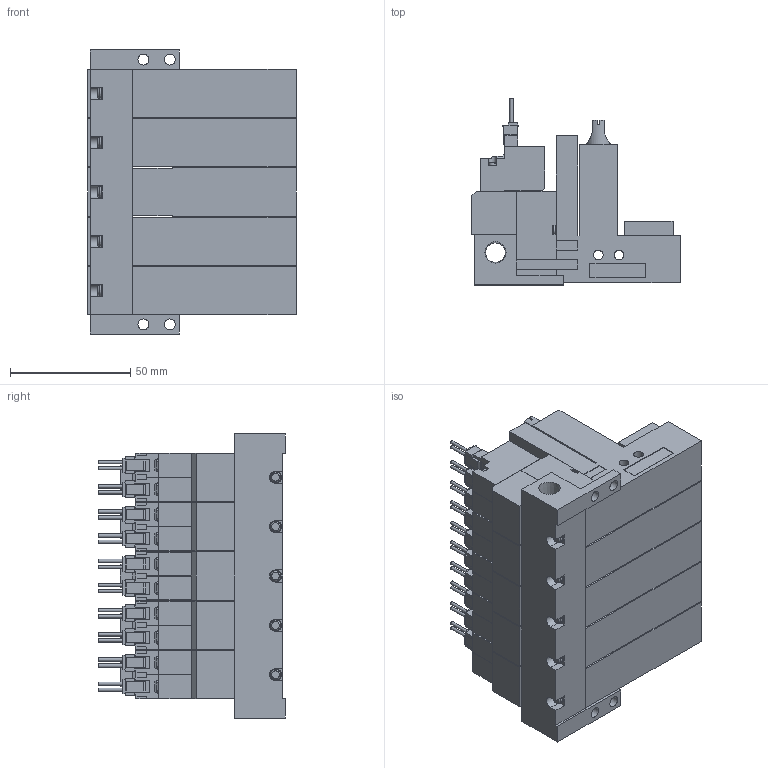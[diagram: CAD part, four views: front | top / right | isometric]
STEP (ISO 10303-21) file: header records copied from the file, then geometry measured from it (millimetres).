
FILE_DESCRIPTION(('STEP AP203'),'1');
FILE_NAME('ZL5BLR505.stp','2025-02-19T00:35:47',(' '),(' '),'Spatial InterOp 3D',' ',' ');
FILE_SCHEMA(('CONFIG_CONTROL_DESIGN'));
Length unit declared in the file: millimetre
Products named in the file (5): BMC22M※※※※ZL5BLR505; Solenoid valve B; Pressure sensor ZL; Unit L; Base MR50R
Assembly tree (16 placements, depth 2):
  BMC22M※※※※ZL5BLR505
    Solenoid valve B  x5
    Pressure sensor ZL  x5
    Unit L  x5
    Base MR50R
Bounding box: 86.6 x 77.45 x 118 mm (x, y, z)
Volume: 383922.5 mm3; surface area: 109155.9 mm2
Topology: 16 solids, 16 shells, 1631 faces, 4439 edges, 2930 vertices
Faces by surface type: plane 1404, cylinder 175, cone 37, torus 15
Full cylindrical faces by diameter (mm): 1.4 x20, 2.5 x5, 3 x20, 3.5 x20, 3.6 x5, 4 x10, 4.134 x5, 4.5 x4, 5.2 x5, 6 x5, 6.6 x5, 8.279 x1
Entity records: 12729 total; most frequent: CARTESIAN_POINT 2432, DIRECTION 2018, ORIENTED_EDGE 1984, EDGE_CURVE 992, LINE 804, VECTOR 804, VERTEX_POINT 696, AXIS2_PLACEMENT_3D 607
